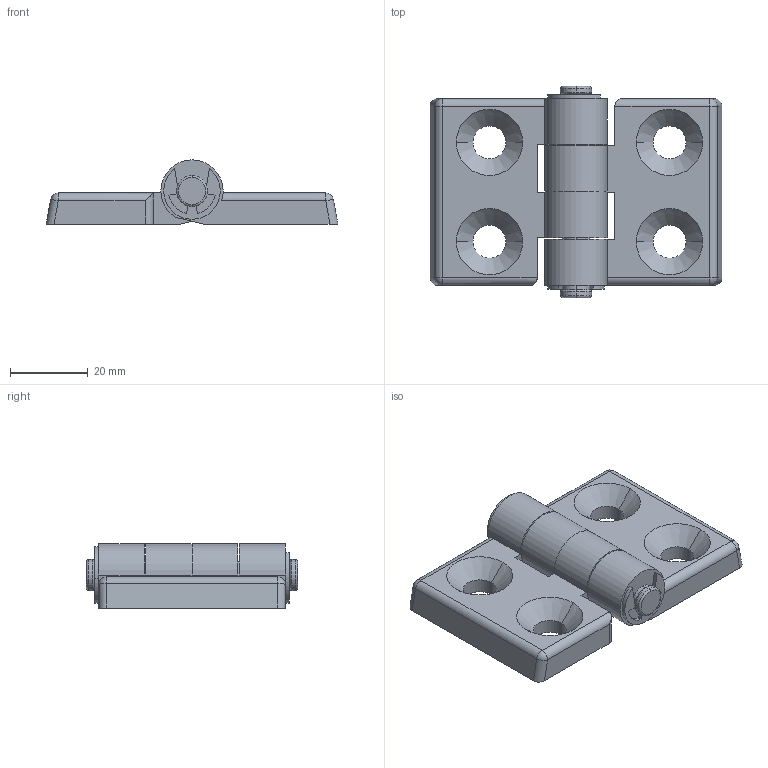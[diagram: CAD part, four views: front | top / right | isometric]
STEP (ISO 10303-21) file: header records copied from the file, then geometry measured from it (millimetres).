
FILE_DESCRIPTION (( 'STEP AP214' ), '1' );
FILE_NAME ('SNSD.30.51.02. Ïåòëÿ àëþìèíèåâàÿ 40x45(B20).STEP', '2015-03-23T12:21:14', ( 'XTreme.ws' ), ( 'XTreme.ws' ), 'SwSTEP 2.0', 'SolidWorks 2014', '' );
FILE_SCHEMA (( 'AUTOMOTIVE_DESIGN' ));
Length unit declared in the file: millimetre
Products named in the file (10): SNSD.30.51.00. Ïåòëÿ ïëàñòèêîâàÿ ìàëàÿ ÷àñòü(B18)B19B20_00; SNSD.30.51.00. Ïåòëÿ ïëàñòèêîâàÿ (B18)B19B20_00; SNSD.30.51.00. 扻錪犩 (B18)B19B20; SNSD.30.51.00. ﾏ琿褻 (B18)B19B20; SNSD.30.51.00. Ïåòëÿ ïëàñòèêîâàÿ ìàëàÿ ÷àñòü(B18)B19B20; SNSD.30.51.00. Ïåòëÿ ïëàñòèêîâàÿ (B18)B19B20; SNSD.30.51.02. Ïåòëÿ àëþìèíèåâàÿ 40x45(B20); SNSD.30.51.00. 扻錪犩 (B18)B19B20_00; SNSD.30.51.00. ﾏ琿褻 (B18)B19B20_00
Assembly tree (5 placements, depth 2):
  SNSD.30.51.00. 扻錪犩 (B18)B19B20
  SNSD.30.51.00. 扻錪犩 (B18)B19B20
  SNSD.30.51.00. ﾏ琿褻 (B18)B19B20
  SNSD.30.51.00. Ïåòëÿ ïëàñòèêîâàÿ ìàëàÿ ÷àñòü(B18)B19B20
  SNSD.30.51.00. Ïåòëÿ ïëàñòèêîâàÿ (B18)B19B20
Bounding box: 74.97 x 54.25 x 16.5 mm (x, y, z)
Volume: 28698 mm3; surface area: 13878.7 mm2
Topology: 5 solids, 5 shells, 122 faces, 306 edges, 190 vertices
Faces by surface type: cylinder 60, plane 42, cone 8, torus 8, sphere 4
Entity records: 3480 total; most frequent: DIRECTION 603, CARTESIAN_POINT 587, ORIENTED_EDGE 526, EDGE_CURVE 263, AXIS2_PLACEMENT_3D 232, VERTEX_POINT 164, VECTOR 139, LINE 139
